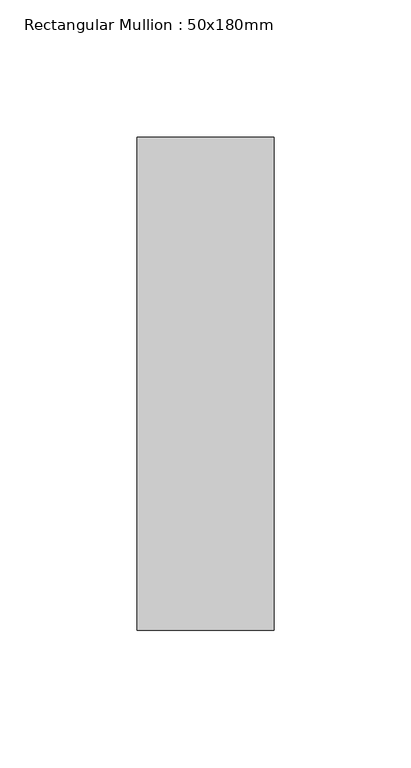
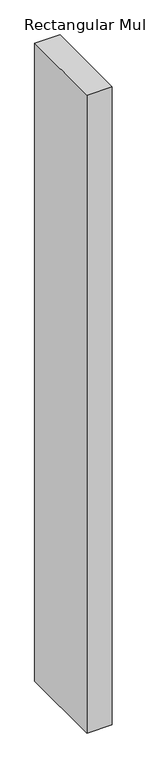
"""IFC4 building model written with IfcOpenShell, lengths in millimetres: member geometry, Rectangular Mullion : 50x180mm."""

from ifc_helpers import new_model, si_unit, frame, origin, place, context, project, spatial, polyline, outline, extrude, source, transform, mapped, element, save


def rectangular_mullion_50x180mm_dd4c0430(model_context):
    return source(origin(), model_context, "Body", "SweptSolid", [
        extrude(outline(polyline([(0.0, 90.0), (0.0, -90.0), (-50.0, -90.0), (-50.0, 90.0), (0.0, 90.0)])), frame((0.0, 0.0, -1340.8333333), z_axis=(0.0, 0.0, 1.0), x_axis=(1.0, 0.0, 0.0)), (0.0, 0.0, 1.0), 1340.8333333),
    ])


if __name__ == "__main__":
    model = new_model("IFC4")
    model_context = context("Model", 3, world=origin())
    ifc_project = project(units=[si_unit("LENGTHUNIT", "METRE", prefix="MILLI")], contexts=[model_context])
    site = spatial("IfcSite", under=ifc_project)
    building = spatial("IfcBuilding", under=site)
    placement = place(None, origin())
    rectangular_mullion_50x180mm_shape = rectangular_mullion_50x180mm_dd4c0430(model_context)
    element("IfcMember", 1, ObjectType="Rectangular Mullion : 50x180mm", at=placement, inside=building, context=model_context, shape_type="MappedRepresentation", body=[
        mapped(rectangular_mullion_50x180mm_shape, transform((0.0, 0.0, 0.0), x_axis=(1.0, 0.0, 0.0), y_axis=(0.0, 1.0, 0.0), z_axis=(0.0, 0.0, 1.0))),
    ])
    save(model, "model.ifc")
